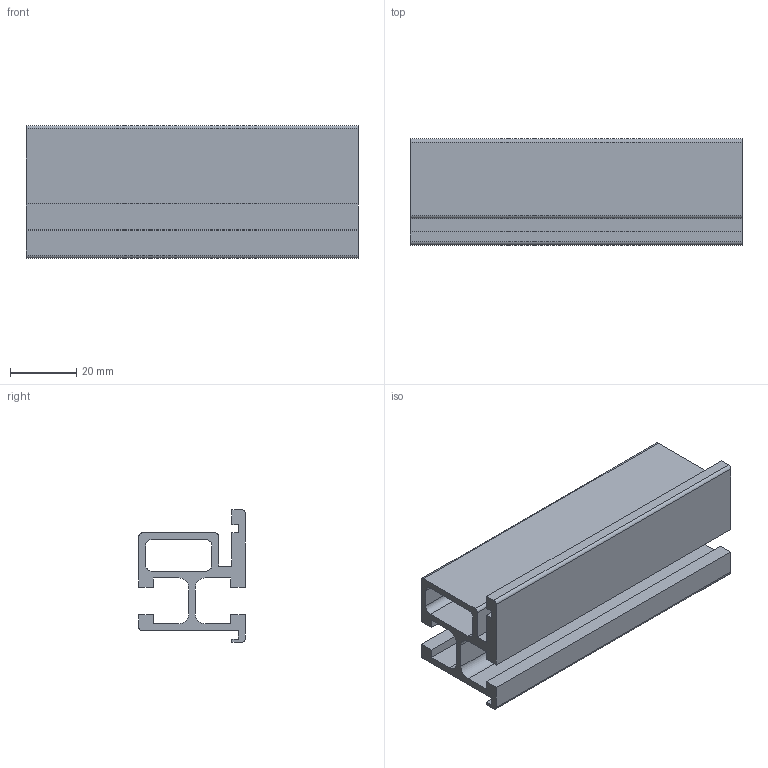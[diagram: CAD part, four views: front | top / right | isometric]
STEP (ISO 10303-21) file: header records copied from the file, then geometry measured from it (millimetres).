
FILE_DESCRIPTION (( 'STEP AP214' ), '1' );
FILE_NAME ('356.001.028.STEP', '2020-07-23T08:50:20', ( '' ), ( '' ), 'SwSTEP 2.0', 'SolidWorks 2018', '' );
FILE_SCHEMA (( 'AUTOMOTIVE_DESIGN' ));
Length unit declared in the file: millimetre
Products named in the file (1): 356.001.028
Bounding box: 100 x 32 x 40 mm (x, y, z)
Volume: 38738.6 mm3; surface area: 31021.8 mm2
Topology: 1 solids, 1 shells, 51 faces, 147 edges, 98 vertices
Faces by surface type: plane 38, cylinder 13
Entity records: 1705 total; most frequent: CARTESIAN_POINT 297, ORIENTED_EDGE 294, DIRECTION 277, EDGE_CURVE 147, VECTOR 121, LINE 121, VERTEX_POINT 98, AXIS2_PLACEMENT_3D 78
